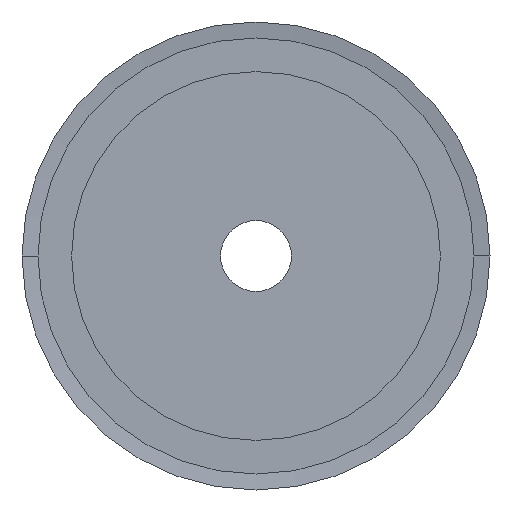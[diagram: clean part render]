
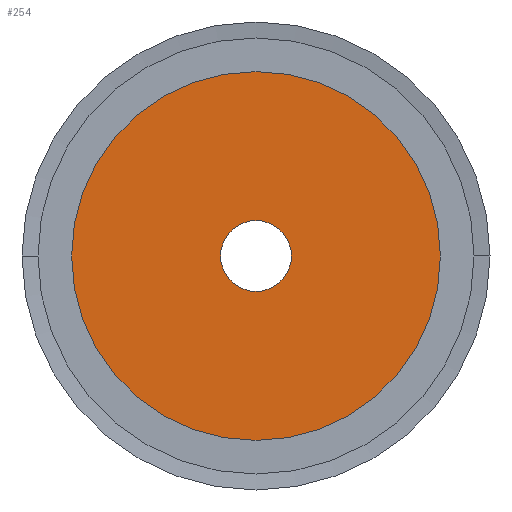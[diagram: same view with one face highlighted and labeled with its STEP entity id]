
A CAD part, left-side view. The second image highlights one B-rep face of the part: STEP entity #254.
In plain terms, the highlighted planar face has unit normal (-1, 0, 0).
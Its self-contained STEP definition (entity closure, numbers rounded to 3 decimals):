
#254 = ADVANCED_FACE( '', ( #620, #621 ), #622, .T. );
#620 = FACE_BOUND( '', #987, .T. );
#621 = FACE_OUTER_BOUND( '', #988, .T. );
#622 = PLANE( '', #989 );
#987 = EDGE_LOOP( '', ( #2545, #2546 ) );
#988 = EDGE_LOOP( '', ( #2547, #2548 ) );
#989 = AXIS2_PLACEMENT_3D( '', #2549, #2550, #2551 );
#2545 = ORIENTED_EDGE( '', *, *, #3057, .F. );
#2546 = ORIENTED_EDGE( '', *, *, #2567, .F. );
#2547 = ORIENTED_EDGE( '', *, *, #2555, .T. );
#2548 = ORIENTED_EDGE( '', *, *, #3062, .T. );
#2549 = CARTESIAN_POINT( '', ( 0., 15.5, 0. ) );
#2550 = DIRECTION( '', ( -1., 0., 0. ) );
#2551 = DIRECTION( '', ( 0., 1., 0. ) );
#2555 = EDGE_CURVE( '', #3064, #3068, #3070, .T. );
#2567 = EDGE_CURVE( '', #3092, #3088, #3094, .T. );
#3057 = EDGE_CURVE( '', #3088, #3092, #3906, .T. );
#3062 = EDGE_CURVE( '', #3068, #3064, #3911, .T. );
#3064 = VERTEX_POINT( '', #3913 );
#3068 = VERTEX_POINT( '', #3918 );
#3070 = CIRCLE( '', #3921, 26. );
#3088 = VERTEX_POINT( '', #3943 );
#3092 = VERTEX_POINT( '', #3948 );
#3094 = CIRCLE( '', #3951, 5. );
#3906 = CIRCLE( '', #5042, 5. );
#3911 = CIRCLE( '', #5047, 26. );
#3913 = CARTESIAN_POINT( '', ( 0., 26., 0. ) );
#3918 = CARTESIAN_POINT( '', ( 0., -26., 0. ) );
#3921 = AXIS2_PLACEMENT_3D( '', #5053, #5054, #5055 );
#3943 = CARTESIAN_POINT( '', ( 0., 5., 0. ) );
#3948 = CARTESIAN_POINT( '', ( 0., -5., 0. ) );
#3951 = AXIS2_PLACEMENT_3D( '', #5077, #5078, #5079 );
#5042 = AXIS2_PLACEMENT_3D( '', #5989, #5990, #5991 );
#5047 = AXIS2_PLACEMENT_3D( '', #6004, #6005, #6006 );
#5053 = CARTESIAN_POINT( '', ( 0., 0., 0. ) );
#5054 = DIRECTION( '', ( -1., 0., 0. ) );
#5055 = DIRECTION( '', ( 0., 1., 0. ) );
#5077 = CARTESIAN_POINT( '', ( 0., 0., 0. ) );
#5078 = DIRECTION( '', ( -1., 0., 0. ) );
#5079 = DIRECTION( '', ( 0., 1., 0. ) );
#5989 = CARTESIAN_POINT( '', ( 0., 0., 0. ) );
#5990 = DIRECTION( '', ( -1., 0., 0. ) );
#5991 = DIRECTION( '', ( 0., 1., 0. ) );
#6004 = CARTESIAN_POINT( '', ( 0., 0., 0. ) );
#6005 = DIRECTION( '', ( -1., 0., 0. ) );
#6006 = DIRECTION( '', ( 0., 1., 0. ) );
